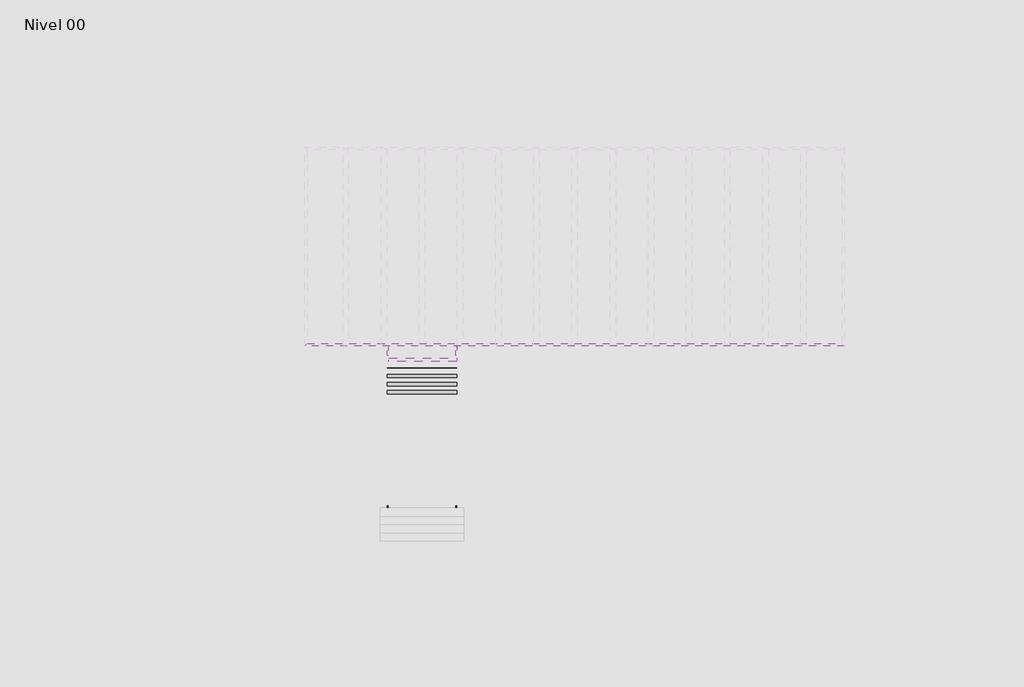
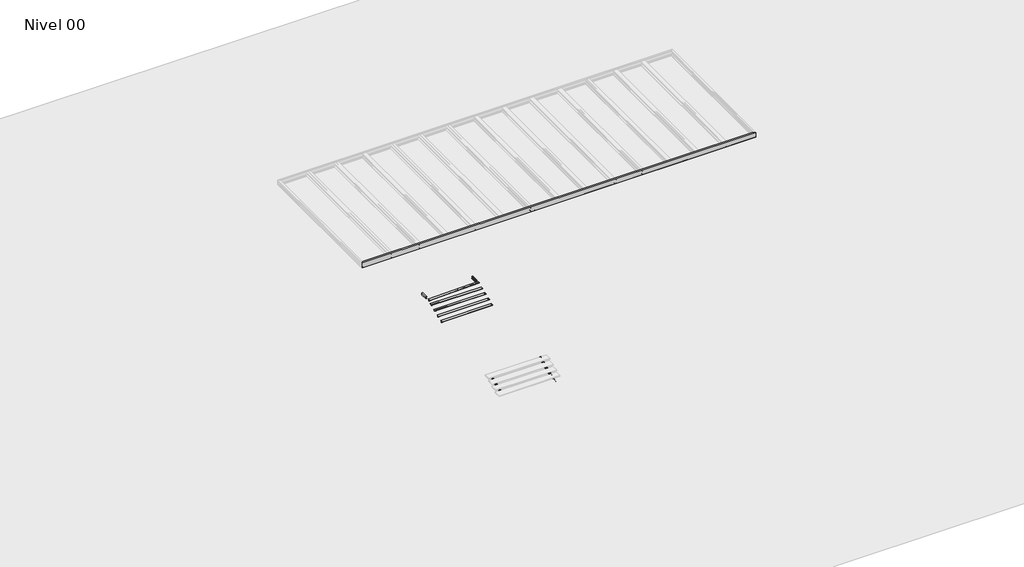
# One storey, part 1 of 2: 14 beams, 12 slabs.
"""IFC4 building model written with IfcOpenShell, lengths in millimetres."""

from ifc_helpers import new_model, si_unit, point, frame, frame_2d, origin, place, context, project, spatial, polyline, circle_curve, ellipse_curve, trimmed, segment, composite_curve, outline, extrude, transform, mapped, element, save
from ifc_brep_helpers import plane_surface, cylinder_surface, revolved_surface, advanced_brep
from components import t_71_c9433b69, t_71_98559a5f

model = new_model("IFC4")

# Units and contexts
model_context = context("Model", 3, world=origin())
ifc_project = project(units=[si_unit("LENGTHUNIT", "METRE", prefix="MILLI")], contexts=[model_context])

# Site, building, storey
site = spatial("IfcSite", under=ifc_project)
building = spatial("IfcBuilding", under=site)
storey = spatial("IfcBuildingStorey", under=building, Name="Nivel 00", Elevation=0.0)

# Beams
placement = place(None, origin())
t_71_shape = t_71_c9433b69(model_context)
element("IfcBeam", 1, ObjectType="T - T estructurales : T 71", at=placement, inside=storey, context=model_context, shape_type="MappedRepresentation", body=[
    mapped(t_71_shape, transform((-4165.3566623, -5528.9584874, 800.6), x_axis=(1.0, 0.0, 0.0), y_axis=(0.0, 1.0, 0.0), z_axis=(0.0, 0.0, 1.0))),
])
element("IfcBeam", 2, ObjectType="T - T estructurales : T 71", at=placement, inside=storey, context=model_context, shape_type="MappedRepresentation", body=[
    mapped(t_71_shape, transform((-4165.3566623, -5173.0274529, 940.6), x_axis=(1.0, 0.0, 0.0), y_axis=(0.0, 1.0, 0.0), z_axis=(0.0, 0.0, 1.0))),
])
element("IfcBeam", 3, ObjectType="T - T estructurales : T 71", at=placement, inside=storey, context=model_context, shape_type="MappedRepresentation", body=[
    mapped(t_71_shape, transform((-4165.3566623, -4816.9515908, 1080.6), x_axis=(1.0, 0.0, 0.0), y_axis=(0.0, 1.0, 0.0), z_axis=(0.0, 0.0, 1.0))),
])
element("IfcBeam", 4, ObjectType="T - T estructurales : T 71", at=placement, inside=storey, context=model_context, shape_type="MappedRepresentation", body=[
    mapped(t_71_shape, transform((-4165.3566623, -4461.1826253, 1220.6), x_axis=(1.0, 0.0, 0.0), y_axis=(0.0, 1.0, 0.0), z_axis=(0.0, 0.0, 1.0))),
])
element("IfcBeam", 5, ObjectType="T - T estructurales : T 71", at=placement, inside=storey, context=model_context, shape_type="MappedRepresentation", body=[
    mapped(t_71_shape, transform((-4165.3566623, -10808.579177, 514.6), x_axis=(1.0, 0.0, 0.0), y_axis=(0.0, 1.0, 0.0), z_axis=(0.0, 0.0, 1.0))),
])
element("IfcBeam", 6, ObjectType="T - T estructurales : T 71", at=placement, inside=storey, context=model_context, shape_type="MappedRepresentation", body=[
    mapped(t_71_shape, transform((-4165.3566623, -11164.4757287, 368.6), x_axis=(1.0, 0.0, 0.0), y_axis=(0.0, 1.0, 0.0), z_axis=(0.0, 0.0, 1.0))),
])
element("IfcBeam", 7, ObjectType="T - T estructurales : T 71", at=placement, inside=storey, context=model_context, shape_type="MappedRepresentation", body=[
    mapped(t_71_shape, transform((-4165.3566623, -11520.4067632, 222.6), x_axis=(1.0, 0.0, 0.0), y_axis=(0.0, 1.0, 0.0), z_axis=(0.0, 0.0, 1.0))),
])
element("IfcBeam", 8, ObjectType="T - T estructurales : T 71", at=placement, inside=storey, context=model_context, shape_type="MappedRepresentation", body=[
    mapped(t_71_shape, transform((-4165.3566623, -11876.3377977, 76.6), x_axis=(1.0, 0.0, 0.0), y_axis=(0.0, 1.0, 0.0), z_axis=(0.0, 0.0, 1.0))),
])
t_71_2_shape = t_71_98559a5f(model_context)
element("IfcBeam", 9, ObjectType="T - T estructurales : T 71", at=placement, inside=storey, context=model_context, shape_type="MappedRepresentation", body=[
    mapped(t_71_2_shape, transform((-4172.0280952, -4105.2515908, 1322.6631924), x_axis=(0.9996956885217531, 0.0, 0.024668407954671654), y_axis=(0.0, 1.0, 0.0), z_axis=(-0.024668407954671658, 0.0, 0.9996956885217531))),
])
element("IfcBeam", 10, ObjectType="Viga UPN : UPN 120", at=placement, inside=storey, context=model_context, shape_type="SweptSolid", body=[
    extrude(outline(composite_curve([segment(polyline([(1380.0, -2634.865283), (1380.0, -2689.865283), (1377.354377, -2689.865283)]), True, "CONTINUOUS"), segment(trimmed(circle_curve(frame_2d((1377.354377, -2685.365283)), 4.5), [point((1377.354377, -2689.865283))], [point((1372.8687083, -2685.7241365))], False, "CARTESIAN"), True, "CONTINUOUS"), segment(polyline([(1372.8687083, -2685.7241365), (1370.0225834, -2650.147576)]), True, "CONTINUOUS"), segment(trimmed(circle_curve(frame_2d((1361.0512459, -2650.865283)), 9.0), [point((1370.0225834, -2650.147576))], [point((1361.0512459, -2641.865283))], True, "CARTESIAN"), True, "CONTINUOUS"), segment(polyline([(1361.0512459, -2641.865283), (1278.9487541, -2641.865283)]), True, "CONTINUOUS"), segment(trimmed(circle_curve(frame_2d((1278.9487541, -2650.865283)), 9.0), [point((1278.9487541, -2641.865283))], [point((1269.9774166, -2650.147576))], True, "CARTESIAN"), True, "CONTINUOUS"), segment(polyline([(1269.9774166, -2650.147576), (1267.1312917, -2685.7241365)]), True, "CONTINUOUS"), segment(trimmed(circle_curve(frame_2d((1262.645623, -2685.365283)), 4.5), [point((1267.1312917, -2685.7241365))], [point((1262.645623, -2689.865283))], False, "CARTESIAN"), True, "CONTINUOUS"), segment(polyline([(1262.645623, -2689.865283), (1260.0, -2689.865283), (1260.0, -2634.865283), (1380.0, -2634.865283)]), True, "CONTINUOUS")], self_intersect=False)), frame((0.0, -3912.6473951, 0.0), z_axis=(0.0, 1.0, 0.0), x_axis=(0.0, 0.0, 1.0)), (0.0, 0.0, 1.0), 419.6263294),
])
element("IfcBeam", 11, ObjectType="Viga UPN : UPN 120", at=placement, inside=storey, context=model_context, shape_type="SweptSolid", body=[
    extrude(outline(composite_curve([segment(polyline([(60.0, -16.0), (-60.0, -16.0), (-60.0, 39.0), (-57.3543771, 39.0)]), True, "CONTINUOUS"), segment(trimmed(circle_curve(frame_2d((-57.3543771, 34.5)), 4.5), [point((-57.3543771, 39.0))], [point((-52.8687083, 34.8588535))], False, "CARTESIAN"), True, "CONTINUOUS"), segment(polyline([(-52.8687083, 34.8588535), (-50.0225834, -0.717707)]), True, "CONTINUOUS"), segment(trimmed(circle_curve(frame_2d((-41.051246, 0.0)), 9.0), [point((-50.0225834, -0.717707))], [point((-41.051246, -9.0))], True, "CARTESIAN"), True, "CONTINUOUS"), segment(polyline([(-41.051246, -9.0), (41.0512459, -9.0)]), True, "CONTINUOUS"), segment(trimmed(circle_curve(frame_2d((41.0512459, 0.0)), 9.0), [point((41.0512459, -9.0))], [point((50.0225834, -0.717707))], True, "CARTESIAN"), True, "CONTINUOUS"), segment(polyline([(50.0225834, -0.717707), (52.8687082, 34.8588535)]), True, "CONTINUOUS"), segment(trimmed(circle_curve(frame_2d((57.354377, 34.5)), 4.5), [point((52.8687082, 34.8588535))], [point((57.354377, 39.0))], False, "CARTESIAN"), True, "CONTINUOUS"), segment(polyline([(57.354377, 39.0), (60.0, 39.0), (60.0, -16.0)]), True, "CONTINUOUS")], self_intersect=False)), frame((-5679.8480416, -12697.2612266, -384.75426), z_axis=(0.0, 0.9251852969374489, 0.3795156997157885), x_axis=(0.0, -0.3795156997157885, 0.9251852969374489)), (0.0, 0.0, 1.0), 2313.208883),
])
element("IfcBeam", 12, ObjectType="Viga UPN : UPN 120", at=placement, inside=storey, context=model_context, shape_type="SweptSolid", body=[
    extrude(outline(composite_curve([segment(polyline([(60.0, 16.0), (60.0, -39.0), (57.354377, -39.0)]), True, "CONTINUOUS"), segment(trimmed(circle_curve(frame_2d((57.354377, -34.5)), 4.5), [point((57.354377, -39.0))], [point((52.8687082, -34.8588535))], False, "CARTESIAN"), True, "CONTINUOUS"), segment(polyline([(52.8687082, -34.8588535), (50.0225834, 0.717707)]), True, "CONTINUOUS"), segment(trimmed(circle_curve(frame_2d((41.0512459, 0.0)), 9.0), [point((50.0225834, 0.717707))], [point((41.0512459, 9.0))], True, "CARTESIAN"), True, "CONTINUOUS"), segment(polyline([(41.0512459, 9.0), (-41.051246, 9.0)]), True, "CONTINUOUS"), segment(trimmed(circle_curve(frame_2d((-41.051246, 0.0)), 9.0), [point((-41.051246, 9.0))], [point((-50.0225834, 0.717707))], True, "CARTESIAN"), True, "CONTINUOUS"), segment(polyline([(-50.0225834, 0.717707), (-52.8687083, -34.8588535)]), True, "CONTINUOUS"), segment(trimmed(circle_curve(frame_2d((-57.3543771, -34.5)), 4.5), [point((-52.8687083, -34.8588535))], [point((-57.3543771, -39.0))], False, "CARTESIAN"), True, "CONTINUOUS"), segment(polyline([(-57.3543771, -39.0), (-60.0, -39.0), (-60.0, 16.0), (60.0, 16.0)]), True, "CONTINUOUS")], self_intersect=False)), frame((-2642.165283, -12697.2612266, -384.75426), z_axis=(0.0, 0.925185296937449, 0.37951569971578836), x_axis=(0.0, -0.37951569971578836, 0.925185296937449)), (0.0, 0.0, 1.0), 2313.208883),
])
element("IfcBeam", 13, ObjectType="Viga UPN : UPN 120", at=placement, inside=storey, context=model_context, shape_type="AdvancedBrep", body=[
    advanced_brep(
    [(-5695.8480416, -3492.8230743, 1380.0), (-5640.8480416, -3492.8230743, 1380.0), (-5640.8480416, -3492.8230743, 1377.354377), (-5644.9891881, -3492.8230743, 1372.8687083), (-5680.5657486, -3492.8230743, 1370.0225834), (-5688.8480416, -3492.8230743, 1361.0512459), (-5688.8480416, -3492.8230743, 1278.9487541), (-5680.5657486, -3492.8230743, 1269.9774166), (-5644.9891881, -3492.8230743, 1267.1312917), (-5640.8480416, -3492.8230743, 1262.645623), (-5640.8480416, -3492.8230743, 1260.0), (-5695.8480416, -3492.8230743, 1260.0), (-5695.8480416, -3889.6105676, 1260.0), (-5695.8480416, -3912.3671081, 1380.0), (-5640.8480416, -3889.6105676, 1260.0), (-5640.8480416, -3890.1122778, 1262.645623), (-5644.9891881, -3890.9629303, 1267.1312917), (-5680.5657486, -3891.5026633, 1269.9774166), (-5688.8480416, -3893.2039683, 1278.9487541), (-5688.8480416, -3908.7737073, 1361.0512459), (-5680.5657486, -3910.4750124, 1370.0225834), (-5644.9891881, -3911.0147453, 1372.8687083), (-5640.8480416, -3911.8653978, 1377.354377), (-5640.8480416, -3912.3671081, 1380.0)],
    [
        (0, 1),
        (1, 2),
        (2, 3, circle_curve(frame((-5645.3480416, -3492.8230743, 1377.354377), z_axis=(0.0, 1.0, 0.0), x_axis=(0.9968152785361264, 0.0, 0.079745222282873)), 4.5)),
        (3, 4),
        (4, 5, circle_curve(frame((-5679.8480416, -3492.8230743, 1361.0512459), z_axis=(0.0, -1.0, 0.0), x_axis=(0.0, 0.0, 1.0)), 9.0)),
        (5, 6),
        (6, 7, circle_curve(frame((-5679.8480416, -3492.8230743, 1278.9487541), z_axis=(0.0, -1.0, 0.0), x_axis=(-0.9968152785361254, 0.0, 0.07974522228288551)), 9.0)),
        (7, 8),
        (8, 9, circle_curve(frame((-5645.3480416, -3492.8230743, 1262.645623), z_axis=(0.0, 1.0, 0.0), x_axis=(0.0, 0.0, 1.0)), 4.5)),
        (9, 10),
        (10, 11),
        (11, 0),
        (12, 13),
        (13, 0),
        (11, 12),
        (14, 12),
        (10, 14),
        (15, 14),
        (9, 15),
        (16, 15, ellipse_curve(frame((-5645.3480416, -3890.1122778, 1262.645623), z_axis=(0.0, 0.9824896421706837, 0.1863172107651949), x_axis=(0.0, 0.1863172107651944, -0.9824896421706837)), 4.580201, 4.5)),
        (8, 16),
        (7, 17),
        (17, 16),
        (18, 17, ellipse_curve(frame((-5679.8480416, -3893.2039683, 1278.9487541), z_axis=(0.0, -0.9824896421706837, -0.1863172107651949), x_axis=(0.0, 0.1863172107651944, -0.9824896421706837)), 9.1604019, 9.0)),
        (6, 18),
        (19, 18),
        (5, 19),
        (20, 19, ellipse_curve(frame((-5679.8480416, -3908.7737073, 1361.0512459), z_axis=(0.0, -0.9824896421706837, -0.1863172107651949), x_axis=(0.0, 0.1863172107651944, -0.9824896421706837)), 9.1604019, 9.0)),
        (4, 20),
        (3, 21),
        (21, 20),
        (22, 21, ellipse_curve(frame((-5645.3480416, -3911.8653978, 1377.354377), z_axis=(0.0, 0.9824896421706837, 0.1863172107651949), x_axis=(0.0, 0.1863172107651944, -0.9824896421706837)), 4.580201, 4.5)),
        (2, 22),
        (23, 22),
        (1, 23),
        (13, 23),
    ],
    [
        plane_surface(frame((-5679.8480416, -3492.8230743, 1320.0), z_axis=(0.0, 1.0, 0.0), x_axis=(0.0, 0.0, 1.0))),
        plane_surface(frame((-5695.8480416, -3912.1017113, 1320.0), z_axis=(-1.0, 0.0, 0.0), x_axis=(0.0, 0.0, -1.0))),
        plane_surface(frame((-5668.3480416, -3912.1017113, 1260.0), z_axis=(0.0, 0.0, -1.0), x_axis=(1.0, 0.0, 0.0))),
        plane_surface(frame((-5640.8480416, -3912.1017113, 1261.3228115), z_axis=(1.0, 0.0, 0.0), x_axis=(0.0, 0.0, 1.0))),
        cylinder_surface(frame((-5645.3480416, -3912.1017113, 1262.645623), z_axis=(0.0, 1.0, 0.0), x_axis=(0.0, 0.0, 1.0)), 4.5),
        plane_surface(frame((-5662.7774684, -3912.1017113, 1268.5543541), z_axis=(0.07974522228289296, 0.0, 0.9968152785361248), x_axis=(-0.9968152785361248, 0.0, 0.07974522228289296))),
        revolved_surface(polyline([(-5688.819379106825, -3492.8230743, 1279.666461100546), (-5688.819379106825, -3894.910708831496, 1279.666461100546)]), (-5679.8480416, -3912.1017113, 1278.9487541), (0.0, 1.0, 0.0)),
        plane_surface(frame((-5688.8480416, -3912.1017113, 1320.0), z_axis=(1.0, 0.0, 0.0), x_axis=(0.0, 0.0, 1.0))),
        revolved_surface(polyline([(-5679.8480416, -3492.8230743, 1370.0512459), (-5679.8480416, -3910.480447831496, 1370.0512459)]), (-5679.8480416, -3912.1017113, 1361.0512459), (0.0, 1.0, 0.0)),
        plane_surface(frame((-5662.7774684, -3912.1017113, 1371.4456459), z_axis=(0.07974522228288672, 0.0, -0.9968152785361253), x_axis=(0.9968152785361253, 0.0, 0.07974522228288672))),
        cylinder_surface(frame((-5645.3480416, -3912.1017113, 1377.354377), z_axis=(0.0, 1.0, 0.0), x_axis=(0.9968152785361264, 0.0, 0.079745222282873)), 4.5),
        plane_surface(frame((-5640.8480416, -3912.1017113, 1378.6771885), z_axis=(1.0, 0.0, 0.0), x_axis=(0.0, 0.0, 1.0))),
        plane_surface(frame((-5668.3480416, -3912.1017113, 1380.0), z_axis=(0.0, 0.0, 1.0), x_axis=(-1.0, 0.0, 0.0))),
        plane_surface(frame((-5710.1480416, -3912.3671081, 1380.0), z_axis=(0.0, -0.9824896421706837, -0.1863172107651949), x_axis=(1.0, 0.0, 0.0))),
    ],
    [
        (0, [[1, 2, 3, 4, 5, 6, 7, 8, 9, 10, 11, 12]]),
        (1, [[13, 14, -12, 15]]),
        (2, [[16, -15, -11, 17]]),
        (3, [[18, -17, -10, 19]]),
        (4, [[20, -19, -9, 21]]),
        (5, [[-21, -8, 22, 23]]),
        (6, [[24, -22, -7, 25]]),
        (7, [[26, -25, -6, 27]]),
        (8, [[28, -27, -5, 29]]),
        (9, [[-29, -4, 30, 31]]),
        (10, [[32, -30, -3, 33]]),
        (11, [[34, -33, -2, 35]]),
        (12, [[36, -35, -1, -14]]),
        (13, [[-13, -16, -18, -20, -23, -24, -26, -28, -31, -32, -34, -36]]),
    ],
),
])
element("IfcBeam", 14, ObjectType="Viga UPN : UPN 300", at=placement, inside=storey, context=model_context, shape_type="AdvancedBrep", body=[
    advanced_brep(
    [(14412.672648, -3493.1309012, 4250.0), (14412.672648, -3493.1309012, 4550.0), (-9319.7825244, -3493.1309012, 4550.0), (-9319.7825244, -3493.1309012, 4250.0), (14312.672648, -3393.1309012, 4250.0), (-9219.7825244, -3393.1309012, 4250.0), (14312.672648, -3393.1309012, 4254.6144408), (-9219.7825244, -3393.1309012, 4254.6144408), (14320.0346863, -3400.4929394, 4262.5889631), (-9227.1445626, -3400.4929394, 4262.5889631), (-9295.0584479, -3468.4068247, 4268.0220739), (14387.9485716, -3468.4068247, 4268.0220739), (14402.672648, -3483.1309012, 4283.9711183), (-9309.7825244, -3483.1309012, 4283.9711183), (14402.672648, -3483.1309012, 4516.0288817), (-9309.7825244, -3483.1309012, 4516.0288817), (14387.9485716, -3468.4068247, 4531.9779261), (-9295.0584479, -3468.4068247, 4531.9779261), (-9227.1445626, -3400.4929394, 4537.4110369), (14320.0346863, -3400.4929394, 4537.4110369), (14312.672648, -3393.1309012, 4545.3855592), (-9219.7825244, -3393.1309012, 4545.3855592), (14312.672648, -3393.1309012, 4550.0), (-9219.7825244, -3393.1309012, 4550.0)],
    [
        (0, 1),
        (1, 2),
        (2, 3),
        (3, 0),
        (4, 0),
        (3, 5),
        (5, 4),
        (6, 4),
        (5, 7),
        (7, 6),
        (8, 6, ellipse_curve(frame((14320.672648, -3401.1309012, 4254.6144408), z_axis=(-0.707106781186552, -0.707106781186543, 0.0), x_axis=(-0.707106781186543, 0.707106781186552, 0.0)), 11.3137085, 8.0)),
        (7, 9, ellipse_curve(frame((-9227.7825244, -3401.1309012, 4254.6144408), z_axis=(0.7071067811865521, -0.7071067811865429, 0.0), x_axis=(-0.7071067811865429, -0.7071067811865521, 0.0)), 11.3137085, 8.0)),
        (9, 8),
        (9, 10),
        (10, 11),
        (11, 8),
        (12, 11, ellipse_curve(frame((14386.672648, -3467.1309012, 4283.9711183), z_axis=(0.707106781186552, 0.707106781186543, 0.0), x_axis=(-0.707106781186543, 0.707106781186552, 0.0)), 22.627417, 16.0)),
        (10, 13, ellipse_curve(frame((-9293.7825244, -3467.1309012, 4283.9711183), z_axis=(-0.7071067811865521, 0.7071067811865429, 0.0), x_axis=(-0.7071067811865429, -0.7071067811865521, 0.0)), 22.627417, 16.0)),
        (13, 12),
        (14, 12),
        (13, 15),
        (15, 14),
        (16, 14, ellipse_curve(frame((14386.672648, -3467.1309012, 4516.0288817), z_axis=(0.707106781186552, 0.707106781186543, 0.0), x_axis=(-0.707106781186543, 0.707106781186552, 0.0)), 22.627417, 16.0)),
        (15, 17, ellipse_curve(frame((-9293.7825244, -3467.1309012, 4516.0288817), z_axis=(-0.7071067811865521, 0.7071067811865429, 0.0), x_axis=(-0.7071067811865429, -0.7071067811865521, 0.0)), 22.627417, 16.0)),
        (17, 16),
        (17, 18),
        (18, 19),
        (19, 16),
        (20, 19, ellipse_curve(frame((14320.672648, -3401.1309012, 4545.3855592), z_axis=(-0.707106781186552, -0.707106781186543, 0.0), x_axis=(-0.707106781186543, 0.707106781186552, 0.0)), 11.3137085, 8.0)),
        (18, 21, ellipse_curve(frame((-9227.7825244, -3401.1309012, 4545.3855592), z_axis=(0.7071067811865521, -0.7071067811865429, 0.0), x_axis=(-0.7071067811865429, -0.7071067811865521, 0.0)), 11.3137085, 8.0)),
        (21, 20),
        (22, 20),
        (21, 23),
        (23, 22),
        (1, 22),
        (23, 2),
    ],
    [
        plane_surface(frame((14325.1450618, -3493.1309012, 4400.0), z_axis=(0.0, -1.0, 0.0), x_axis=(0.0, 0.0, -1.0))),
        plane_surface(frame((14325.1450618, -3443.1309012, 4250.0), z_axis=(0.0, 0.0, -1.0), x_axis=(0.0, 1.0, 0.0))),
        plane_surface(frame((14325.1450618, -3393.1309012, 4252.3072204), z_axis=(0.0, 1.0, 0.0), x_axis=(0.0, 0.0, 1.0))),
        cylinder_surface(frame((14325.1450618, -3401.1309012, 4254.6144408), z_axis=(-1.0, 0.0, 0.0), x_axis=(0.0, 0.0, 1.0)), 8.0),
        plane_surface(frame((14325.1450618, -3434.449882, 4265.3055185), z_axis=(0.0, 0.07974522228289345, 0.9968152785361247), x_axis=(0.0, -0.9968152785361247, 0.07974522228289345))),
        revolved_surface(polyline([(-9309.782524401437, -3483.0799456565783, 4285.247041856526), (14402.672648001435, -3483.0799456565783, 4285.247041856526)]), (14325.1450618, -3467.1309012, 4283.9711183), (-1.0, 0.0, 0.0)),
        plane_surface(frame((14325.1450618, -3483.1309012, 4400.0), z_axis=(0.0, 1.0, 0.0), x_axis=(0.0, 0.0, 1.0))),
        revolved_surface(polyline([(-9309.782524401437, -3467.1309012, 4532.0288817), (14402.672648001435, -3467.1309012, 4532.0288817)]), (14325.1450618, -3467.1309012, 4516.0288817), (-1.0, 0.0, 0.0)),
        plane_surface(frame((14325.1450618, -3434.449882, 4534.6944815), z_axis=(0.0, 0.07974522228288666, -0.9968152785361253), x_axis=(0.0, 0.9968152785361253, 0.07974522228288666))),
        cylinder_surface(frame((14325.1450618, -3401.1309012, 4545.3855592), z_axis=(-1.0, 0.0, 0.0), x_axis=(0.0, 0.9968152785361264, 0.079745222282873)), 8.0),
        plane_surface(frame((14325.1450618, -3393.1309012, 4547.6927796), z_axis=(0.0, 1.0, 0.0), x_axis=(0.0, 0.0, 1.0))),
        plane_surface(frame((14325.1450618, -3443.1309012, 4550.0), z_axis=(0.0, 0.0, 1.0), x_axis=(0.0, -1.0, 0.0))),
        plane_surface(frame((14312.672648, -3393.1309012, 4550.0), z_axis=(0.707106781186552, 0.707106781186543, 0.0), x_axis=(0.707106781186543, -0.707106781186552, 0.0))),
        plane_surface(frame((-9219.7825244, -3393.1309012, 4550.0), z_axis=(-0.7071067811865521, 0.7071067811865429, 0.0), x_axis=(0.7071067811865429, 0.7071067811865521, 0.0))),
    ],
    [
        (0, [[1, 2, 3, 4]]),
        (1, [[5, -4, 6, 7]]),
        (2, [[8, -7, 9, 10]]),
        (3, [[11, -10, 12, 13]]),
        (4, [[-13, 14, 15, 16]]),
        (5, [[17, -15, 18, 19]]),
        (6, [[20, -19, 21, 22]]),
        (7, [[23, -22, 24, 25]]),
        (8, [[-25, 26, 27, 28]]),
        (9, [[29, -27, 30, 31]]),
        (10, [[32, -31, 33, 34]]),
        (11, [[35, -34, 36, -2]]),
        (12, [[-1, -5, -8, -11, -16, -17, -20, -23, -28, -29, -32, -35]]),
        (13, [[-36, -33, -30, -26, -24, -21, -18, -14, -12, -9, -6, -3]]),
    ],
),
])

# Slabs
element("IfcSlab", 15, ObjectType="Hormigón limpieza 100 mm", at=placement, inside=storey, context=model_context, shape_type="SweptSolid", body=[
    extrude(outline(polyline([(-13627.0118347, -10099.8377977), (-13627.0118347, -11299.8377977), (-14827.0118347, -11299.8377977), (-14827.0118347, -10099.8377977), (-13627.0118347, -10099.8377977)])), frame((0.0, 0.0, -1550.0), z_axis=(0.0, 0.0, 1.0), x_axis=(1.0, 0.0, 0.0)), (0.0, 0.0, 1.0), 100.0),
])
element("IfcSlab", 16, ObjectType="Hormigón limpieza 100 mm", at=placement, inside=storey, context=model_context, shape_type="SweptSolid", body=[
    extrude(outline(polyline([(-6917.0118347, -10099.8377977), (-6917.0118347, -11299.8377977), (-8117.0118347, -11299.8377977), (-8117.0118347, -10099.8377977), (-6917.0118347, -10099.8377977)])), frame((0.0, 0.0, -1550.0), z_axis=(0.0, 0.0, 1.0), x_axis=(1.0, 0.0, 0.0)), (0.0, 0.0, 1.0), 100.0),
])
element("IfcSlab", 17, ObjectType="Hormigón limpieza 100 mm", at=placement, inside=storey, context=model_context, shape_type="SweptSolid", body=[
    extrude(outline(polyline([(-209.4601106, -10099.8377977), (-209.4601106, -11299.8377977), (-1409.4601106, -11299.8377977), (-1409.4601106, -10099.8377977), (-209.4601106, -10099.8377977)])), frame((0.0, 0.0, -1550.0), z_axis=(0.0, 0.0, 1.0), x_axis=(1.0, 0.0, 0.0)), (0.0, 0.0, 1.0), 100.0),
])
element("IfcSlab", 18, ObjectType="Hormigón limpieza 100 mm", at=placement, inside=storey, context=model_context, shape_type="SweptSolid", body=[
    extrude(outline(polyline([(-13627.0118347, -2993.1309012), (-13627.0118347, -4193.1309012), (-14827.0118347, -4193.1309012), (-14827.0118347, -2993.1309012), (-13627.0118347, -2993.1309012)])), frame((0.0, 0.0, -1550.0), z_axis=(0.0, 0.0, 1.0), x_axis=(1.0, 0.0, 0.0)), (0.0, 0.0, 1.0), 100.0),
])
element("IfcSlab", 19, ObjectType="Hormigón limpieza 100 mm", at=placement, inside=storey, context=model_context, shape_type="SweptSolid", body=[
    extrude(outline(polyline([(-6917.0118347, -2993.1309012), (-6917.0118347, -4193.1309012), (-8117.0118347, -4193.1309012), (-8117.0118347, -2993.1309012), (-6917.0118347, -2993.1309012)])), frame((0.0, 0.0, -1550.0), z_axis=(0.0, 0.0, 1.0), x_axis=(1.0, 0.0, 0.0)), (0.0, 0.0, 1.0), 100.0),
])
element("IfcSlab", 20, ObjectType="Hormigón limpieza 100 mm", at=placement, inside=storey, context=model_context, shape_type="SweptSolid", body=[
    extrude(outline(polyline([(-209.4601106, -2993.1309012), (-209.4601106, -4193.1309012), (-1409.4601106, -4193.1309012), (-1409.4601106, -2993.1309012), (-209.4601106, -2993.1309012)])), frame((0.0, 0.0, -1550.0), z_axis=(0.0, 0.0, 1.0), x_axis=(1.0, 0.0, 0.0)), (0.0, 0.0, 1.0), 100.0),
])
element("IfcSlab", 21, ObjectType="Hormigón limpieza 100 mm", at=placement, inside=storey, context=model_context, shape_type="SweptSolid", body=[
    extrude(outline(polyline([(6502.3416135, -2993.1309012), (6502.3416135, -4193.1309012), (5302.3416135, -4193.1309012), (5302.3416135, -2993.1309012), (6502.3416135, -2993.1309012)])), frame((0.0, 0.0, -1550.0), z_axis=(0.0, 0.0, 1.0), x_axis=(1.0, 0.0, 0.0)), (0.0, 0.0, 1.0), 100.0),
])
element("IfcSlab", 22, ObjectType="Hormigón limpieza 100 mm", at=placement, inside=storey, context=model_context, shape_type="SweptSolid", body=[
    extrude(outline(polyline([(13214.134717, -2993.1309012), (13214.134717, -4193.1309012), (12014.134717, -4193.1309012), (12014.134717, -2993.1309012), (13214.134717, -2993.1309012)])), frame((0.0, 0.0, -1550.0), z_axis=(0.0, 0.0, 1.0), x_axis=(1.0, 0.0, 0.0)), (0.0, 0.0, 1.0), 100.0),
])
element("IfcSlab", 23, ObjectType="Hormigón limpieza 100 mm", at=placement, inside=storey, context=model_context, shape_type="SweptSolid", body=[
    extrude(outline(polyline([(-6917.0118347, 5947.4380644), (-6917.0118347, 4747.4380644), (-8117.0118347, 4747.4380644), (-8117.0118347, 5947.4380644), (-6917.0118347, 5947.4380644)])), frame((0.0, 0.0, -1550.0), z_axis=(0.0, 0.0, 1.0), x_axis=(1.0, 0.0, 0.0)), (0.0, 0.0, 1.0), 100.0),
])
element("IfcSlab", 24, ObjectType="Hormigón limpieza 100 mm", at=placement, inside=storey, context=model_context, shape_type="SweptSolid", body=[
    extrude(outline(polyline([(-209.4601106, 5947.4380644), (-209.4601106, 4747.4380644), (-1409.4601106, 4747.4380644), (-1409.4601106, 5947.4380644), (-209.4601106, 5947.4380644)])), frame((0.0, 0.0, -1550.0), z_axis=(0.0, 0.0, 1.0), x_axis=(1.0, 0.0, 0.0)), (0.0, 0.0, 1.0), 100.0),
])
element("IfcSlab", 25, ObjectType="Hormigón limpieza 100 mm", at=placement, inside=storey, context=model_context, shape_type="SweptSolid", body=[
    extrude(outline(polyline([(6502.3416135, 5947.4380644), (6502.3416135, 4747.4380644), (5302.3416135, 4747.4380644), (5302.3416135, 5947.4380644), (6502.3416135, 5947.4380644)])), frame((0.0, 0.0, -1550.0), z_axis=(0.0, 0.0, 1.0), x_axis=(1.0, 0.0, 0.0)), (0.0, 0.0, 1.0), 100.0),
])
element("IfcSlab", 26, ObjectType="Hormigón limpieza 100 mm", at=placement, inside=storey, context=model_context, shape_type="SweptSolid", body=[
    extrude(outline(polyline([(13214.134717, 5947.4380644), (13214.134717, 4747.4380644), (12014.134717, 4747.4380644), (12014.134717, 5947.4380644), (13214.134717, 5947.4380644)])), frame((0.0, 0.0, -1550.0), z_axis=(0.0, 0.0, 1.0), x_axis=(1.0, 0.0, 0.0)), (0.0, 0.0, 1.0), 100.0),
])

save(model, "model.ifc")
